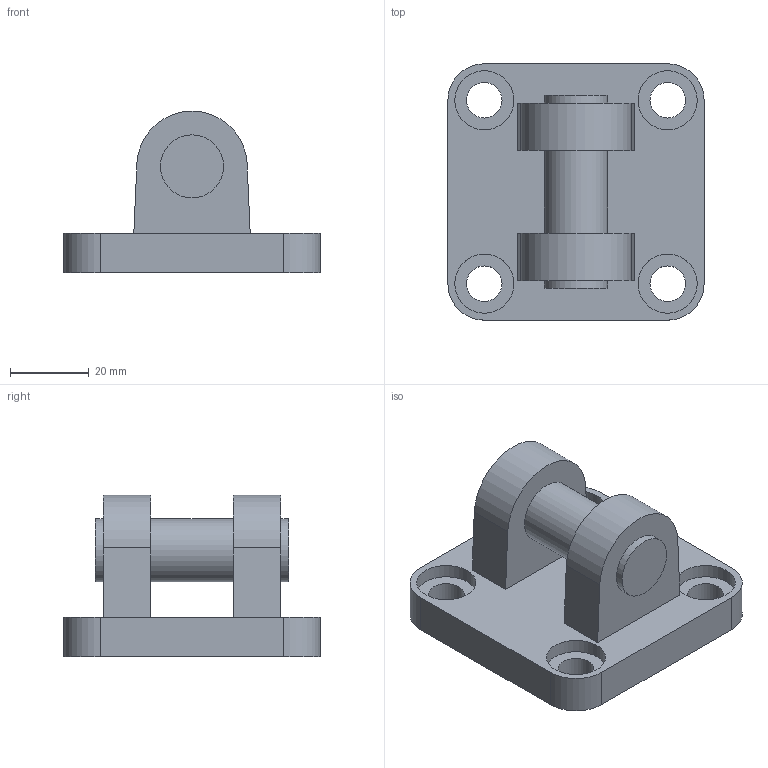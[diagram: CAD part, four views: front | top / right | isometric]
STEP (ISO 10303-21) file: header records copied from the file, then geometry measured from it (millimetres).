
FILE_DESCRIPTION((''),'2;1');
FILE_NAME('K:\A-Roberto\_Inventor\Rev.Librerie\FISSAGGI\1320_Ø_29F\STEP(1320_Ø_29F)\1320_Ø_29F.stp','2006-07-12T14:10:51',('rivolro1'),(''),'Autodesk Inventor 11','Autodesk Inventor 11','');
FILE_SCHEMA(('AUTOMOTIVE_DESIGN { 1 0 10303 214 1 1 1 1 }'));
Length unit declared in the file: millimetre
Products named in the file (1): 1320_50_29F
Bounding box: 65 x 65 x 41 mm (x, y, z)
Volume: 55259.5 mm3; surface area: 17464.5 mm2
Topology: 1 solids, 1 shells, 39 faces, 84 edges, 56 vertices
Faces by surface type: plane 16, bspline 14, cylinder 9
Full cylindrical faces by diameter (mm): 16 x3
Entity records: 1174 total; most frequent: CARTESIAN_POINT 336, DIRECTION 160, ORIENTED_EDGE 144, EDGE_CURVE 72, EDGE_LOOP 70, AXIS2_PLACEMENT_3D 62, VERTEX_POINT 56, FACE_OUTER_BOUND 39
